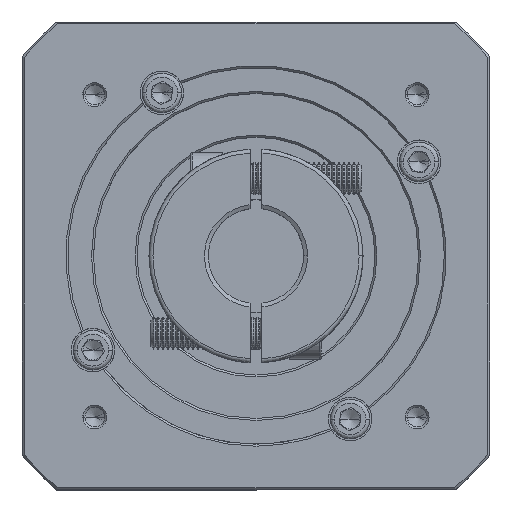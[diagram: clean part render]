
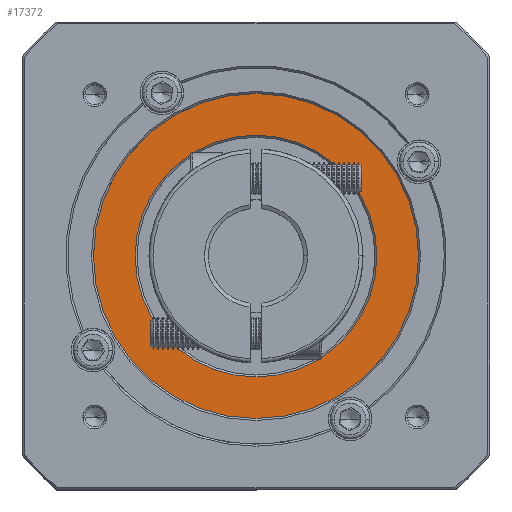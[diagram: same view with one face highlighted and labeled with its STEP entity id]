
A CAD part, top view. The second image highlights one B-rep face of the part: STEP entity #17372.
In plain terms, the highlighted planar face has unit normal (0, 0, 1).
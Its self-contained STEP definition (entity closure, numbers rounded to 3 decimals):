
#6769 = DIRECTION ( 'NONE',  ( 0., 0., 1. ) ) ;
#10628 = VERTEX_POINT ( 'NONE', #26070 ) ;
#15803 = PLANE ( 'NONE',  #84432 ) ;
#16104 = CARTESIAN_POINT ( 'NONE',  ( 70.673, 78.563, -55.146 ) ) ;
#17118 = FACE_BOUND ( 'NONE', #56195, .T. ) ;
#17372 = ADVANCED_FACE ( 'NONE', ( #114116, #17118 ), #15803, .T. ) ;
#17712 = DIRECTION ( 'NONE',  ( 0., 0., -1. ) ) ;
#18155 = CARTESIAN_POINT ( 'NONE',  ( 40.173, 78.563, -55.146 ) ) ;
#19544 = EDGE_CURVE ( 'NONE', #79876, #51846, #117981, .T. ) ;
#21639 = VERTEX_POINT ( 'NONE', #18155 ) ;
#25546 = DIRECTION ( 'NONE',  ( 1., 0., 0. ) ) ;
#25547 = AXIS2_PLACEMENT_3D ( 'NONE', #103679, #47299, #113094 ) ;
#26070 = CARTESIAN_POINT ( 'NONE',  ( 101.173, 78.563, -55.146 ) ) ;
#26787 = DIRECTION ( 'NONE',  ( 0., 0., -1. ) ) ;
#40117 = EDGE_LOOP ( 'NONE', ( #100329, #98419 ) ) ;
#41101 = CARTESIAN_POINT ( 'NONE',  ( 111.673, 78.563, -55.146 ) ) ;
#47299 = DIRECTION ( 'NONE',  ( 0., 0., 1. ) ) ;
#48369 = AXIS2_PLACEMENT_3D ( 'NONE', #73948, #17712, #83435 ) ;
#48748 = EDGE_CURVE ( 'NONE', #21639, #10628, #81191, .T. ) ;
#51846 = VERTEX_POINT ( 'NONE', #69728 ) ;
#52251 = AXIS2_PLACEMENT_3D ( 'NONE', #83031, #26787, #92511 ) ;
#55725 = CIRCLE ( 'NONE', #52251, 30.5 ) ;
#56195 = EDGE_LOOP ( 'NONE', ( #75342, #69233 ) ) ;
#57355 = CIRCLE ( 'NONE', #25547, 41. ) ;
#62932 = CARTESIAN_POINT ( 'NONE',  ( 70.673, 78.563, -55.146 ) ) ;
#67121 = EDGE_CURVE ( 'NONE', #51846, #79876, #57355, .T. ) ;
#67393 = EDGE_CURVE ( 'NONE', #10628, #21639, #55725, .T. ) ;
#69233 = ORIENTED_EDGE ( 'NONE', *, *, #48748, .T. ) ;
#69728 = CARTESIAN_POINT ( 'NONE',  ( 29.673, 78.563, -55.146 ) ) ;
#71738 = AXIS2_PLACEMENT_3D ( 'NONE', #16104, #81825, #25546 ) ;
#72415 = DIRECTION ( 'NONE',  ( 1., 0., 0. ) ) ;
#73948 = CARTESIAN_POINT ( 'NONE',  ( 70.673, 78.563, -55.146 ) ) ;
#75342 = ORIENTED_EDGE ( 'NONE', *, *, #67393, .T. ) ;
#79876 = VERTEX_POINT ( 'NONE', #41101 ) ;
#81191 = CIRCLE ( 'NONE', #48369, 30.5 ) ;
#81825 = DIRECTION ( 'NONE',  ( 0., 0., 1. ) ) ;
#83031 = CARTESIAN_POINT ( 'NONE',  ( 70.673, 78.563, -55.146 ) ) ;
#83435 = DIRECTION ( 'NONE',  ( 1., 0., 0. ) ) ;
#84432 = AXIS2_PLACEMENT_3D ( 'NONE', #62932, #6769, #72415 ) ;
#92511 = DIRECTION ( 'NONE',  ( 1., 0., 0. ) ) ;
#98419 = ORIENTED_EDGE ( 'NONE', *, *, #67121, .T. ) ;
#100329 = ORIENTED_EDGE ( 'NONE', *, *, #19544, .T. ) ;
#103679 = CARTESIAN_POINT ( 'NONE',  ( 70.673, 78.563, -55.146 ) ) ;
#113094 = DIRECTION ( 'NONE',  ( 1., 0., 0. ) ) ;
#114116 = FACE_OUTER_BOUND ( 'NONE', #40117, .T. ) ;
#117981 = CIRCLE ( 'NONE', #71738, 41. ) ;
